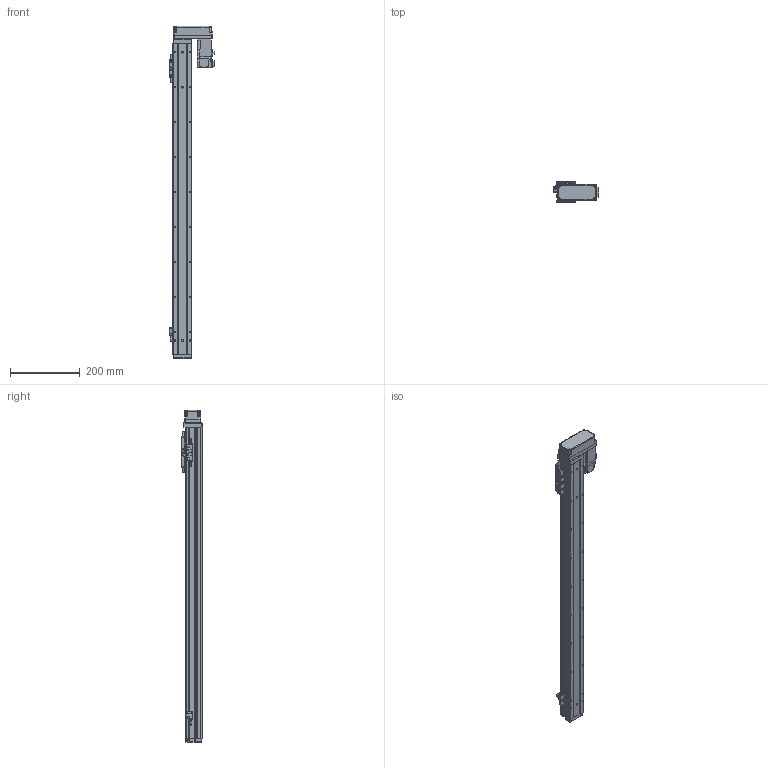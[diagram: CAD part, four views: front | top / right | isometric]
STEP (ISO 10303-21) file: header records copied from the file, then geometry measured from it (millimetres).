
FILE_DESCRIPTION (( 'STEP AP214' ), '1' );
FILE_NAME ('N_GRH5-750-BL-M10.step', '2025-03-14T09:45:54', ( '' ), ( '' ), 'SwSTEP 2.0', 'SolidWorks 2016', '' );
FILE_SCHEMA (( 'AUTOMOTIVE_DESIGN' ));
Length unit declared in the file: millimetre
Products named in the file (5): N_GRH5-GY-011^N_GRH5-750-BL-M10; N_GRH5-GY-004^N_GRH5-750-BL-M10; N_GRH5-BL-008^N_GRH5-750-BL-M10; HF-KP13_100W_Motor^N_GRH5-750-BL-M10; N_GRH5-750-BL-M10
Assembly tree (4 placements, depth 2):
  N_GRH5-750-BL-M10
    N_GRH5-GY-011^N_GRH5-750-BL-M10
    N_GRH5-GY-004^N_GRH5-750-BL-M10
    HF-KP13_100W_Motor^N_GRH5-750-BL-M10
    N_GRH5-BL-008^N_GRH5-750-BL-M10
Bounding box: 128.85 x 60 x 950 mm (x, y, z)
Volume: 1714665.5 mm3; surface area: 441511.2 mm2
Topology: 4 solids, 5 shells, 954 faces, 2448 edges, 1561 vertices
Faces by surface type: plane 561, cylinder 338, cone 30, bspline 15, sphere 10
Entity records: 36325 total; most frequent: CARTESIAN_POINT 5801, DIRECTION 4953, ORIENTED_EDGE 4848, EDGE_CURVE 2424, VECTOR 1655, LINE 1655, AXIS2_PLACEMENT_3D 1649, VERTEX_POINT 1559
